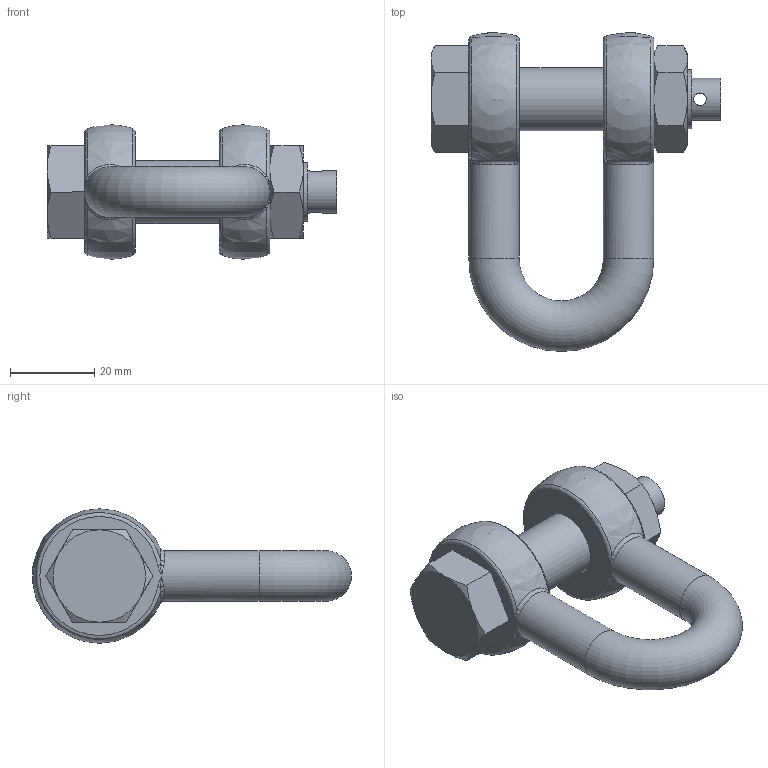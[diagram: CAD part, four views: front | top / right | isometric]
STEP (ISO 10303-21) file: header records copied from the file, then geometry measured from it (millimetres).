
FILE_DESCRIPTION(/* description */ (''),/* implementation_level */ '2;1');
FILE_NAME(/* name */ 'C:\Users\D\Documents\Inventor\HP\吊具\シャックル\SB_2\sb_12.stp',/* time_stamp */ '2024-11-14T11:45:01+09:00',/* author */ ('D'),/* organization */ (''),/* preprocessor_version */ 'ST-DEVELOPER v18',/* originating_system */ 'Autodesk Inventor 2020',/* authorisation */ '');
FILE_SCHEMA (('AUTOMOTIVE_DESIGN { 1 0 10303 214 3 1 1 }'));
Length unit declared in the file: millimetre
Products named in the file (3): sb_12; sb_6; sb_pin_10
Assembly tree (2 placements, depth 2):
  sb_12
    sb_6
    sb_pin_10
Bounding box: 69 x 75.88 x 32 mm (x, y, z)
Volume: 39786.3 mm3; surface area: 13915.8 mm2
Topology: 2 solids, 2 shells, 85 faces, 219 edges, 121 vertices
Faces by surface type: bspline 24, plane 22, cone 19, cylinder 9, torus 9, sphere 2
Full cylindrical faces by diameter (mm): 3 x1, 10 x1, 12 x2, 14 x2, 15 x1, 16 x2
Entity records: 3194 total; most frequent: CARTESIAN_POINT 1335, ORIENTED_EDGE 398, DIRECTION 339, EDGE_CURVE 199, AXIS2_PLACEMENT_3D 155, VERTEX_POINT 121, EDGE_LOOP 94, CIRCLE 89
